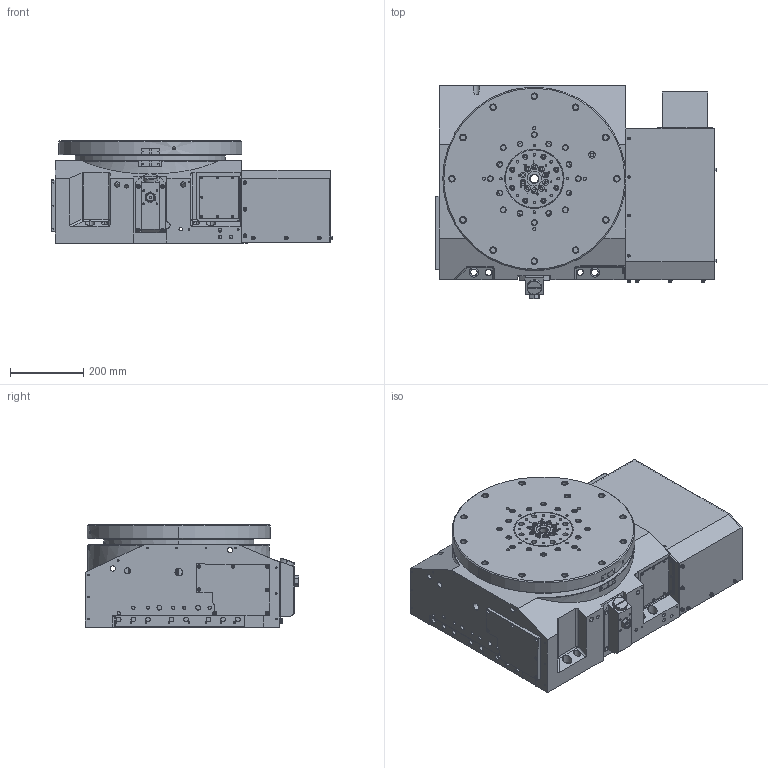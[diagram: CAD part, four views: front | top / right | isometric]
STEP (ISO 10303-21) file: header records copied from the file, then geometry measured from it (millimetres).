
FILE_DESCRIPTION (( 'STEP AP203' ), '1' );
FILE_NAME ('1519524 MDO503R-68.SLDPRT.STEP', '2020-12-05T05:28:36', ( '' ), ( '' ), 'SwSTEP 2.0', 'SolidWorks 2019', '' );
FILE_SCHEMA (( 'CONFIG_CONTROL_DESIGN' ));
Products named in the file (1): 1519524 MDO503R-68.SLDPRT
Bounding box: 765.3 x 582 x 279 mm (x, y, z)
Surface area: 2246280.5 mm2 (no closed solid volume)
Topology: 0 solids, 88 shells, 1163 faces, 4282 edges, 3200 vertices
Faces by surface type: cylinder 577, plane 345, cone 216, bspline 17, torus 5, sphere 3
Entity records: 53554 total; most frequent: CARTESIAN_POINT 17111, DIRECTION 7676, ORIENTED_EDGE 6541, EDGE_CURVE 4280, VERTEX_POINT 3200, AXIS2_PLACEMENT_3D 2952, CIRCLE 1805, VECTOR 1772
